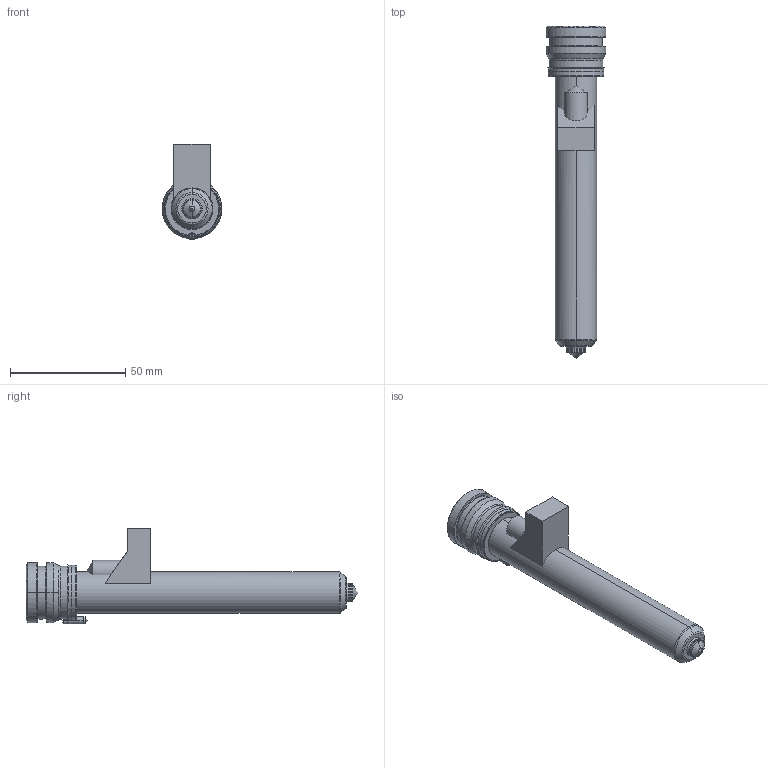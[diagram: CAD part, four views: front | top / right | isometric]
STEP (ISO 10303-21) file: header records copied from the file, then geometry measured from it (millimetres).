
FILE_DESCRIPTION((''),'2;1');
FILE_NAME('MPN-08-24-TS8-126-M','2026-02-05T13:24:46',('UPTIO'),('Thermoplay S.p.A.'),'CREO PARAMETRIC BY PTC INC, 2023494','CREO PARAMETRIC BY PTC INC, 2023494','');
FILE_SCHEMA(('CONFIG_CONTROL_DESIGN','SHAPE_APPEARANCE_LAYERS_GROUPS'));
Length unit declared in the file: millimetre
Products named in the file (1): MPN-08-24-TS8-126-M
Bounding box: 26 x 144 x 41.5 mm (x, y, z)
Volume: 27948.1 mm3; surface area: 36862.4 mm2
Topology: 2 solids, 5 shells, 532 faces, 1371 edges, 843 vertices
Faces by surface type: cylinder 172, plane 146, bspline 77, torus 62, cone 58, sphere 11, extrusion 6
Entity records: 28006 total; most frequent: CARTESIAN_POINT 12367, ORIENTED_EDGE 2720, DIRECTION 2456, EDGE_CURVE 1360, AXIS2_PLACEMENT_3D 960, VERTEX_POINT 843, EDGE_LOOP 561, VECTOR 536
